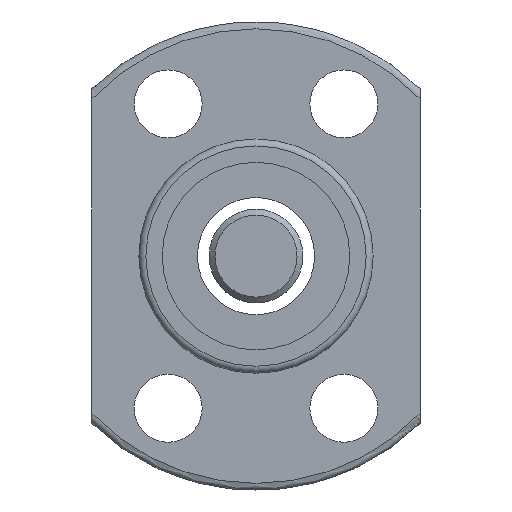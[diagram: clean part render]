
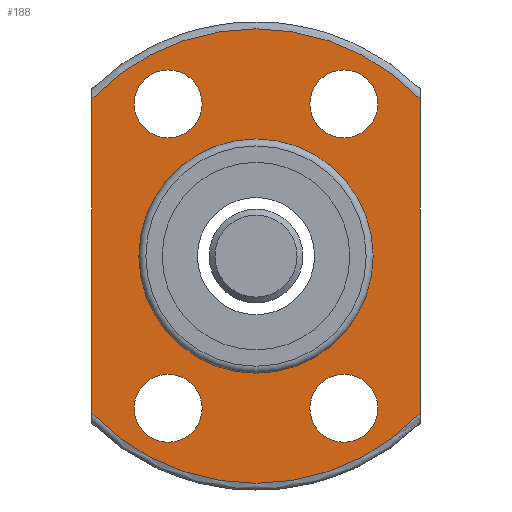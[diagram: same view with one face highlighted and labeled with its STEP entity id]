
A CAD part, left-side view. The second image highlights one B-rep face of the part: STEP entity #188.
In plain terms, the highlighted planar face has unit normal (-1, 0, 0).
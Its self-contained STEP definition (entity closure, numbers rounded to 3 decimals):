
#101=LINE('',#890,#109);
#102=LINE('',#891,#110);
#109=VECTOR('',#615,1.);
#110=VECTOR('',#616,1.);
#150=FACE_BOUND('',#249,.T.);
#151=FACE_BOUND('',#250,.T.);
#152=FACE_BOUND('',#251,.T.);
#153=FACE_BOUND('',#252,.T.);
#154=FACE_BOUND('',#253,.T.);
#188=ADVANCED_FACE('',(#150,#151,#152,#153,#154,#223),#206,.F.);
#206=PLANE('',#517);
#223=FACE_OUTER_BOUND('',#254,.T.);
#249=EDGE_LOOP('',(#322));
#250=EDGE_LOOP('',(#323));
#251=EDGE_LOOP('',(#324));
#252=EDGE_LOOP('',(#325));
#253=EDGE_LOOP('',(#326));
#254=EDGE_LOOP('',(#327,#328,#329,#330));
#322=ORIENTED_EDGE('',*,*,#439,.T.);
#323=ORIENTED_EDGE('',*,*,#440,.T.);
#324=ORIENTED_EDGE('',*,*,#441,.T.);
#325=ORIENTED_EDGE('',*,*,#442,.T.);
#326=ORIENTED_EDGE('',*,*,#443,.T.);
#327=ORIENTED_EDGE('',*,*,#437,.F.);
#328=ORIENTED_EDGE('',*,*,#444,.T.);
#329=ORIENTED_EDGE('',*,*,#421,.F.);
#330=ORIENTED_EDGE('',*,*,#445,.F.);
#381=VERTEX_POINT('',#751);
#382=VERTEX_POINT('',#771);
#394=VERTEX_POINT('',#857);
#395=VERTEX_POINT('',#859);
#396=VERTEX_POINT('',#881);
#397=VERTEX_POINT('',#883);
#398=VERTEX_POINT('',#885);
#399=VERTEX_POINT('',#887);
#400=VERTEX_POINT('',#889);
#421=EDGE_CURVE('',#382,#381,#460,.T.);
#437=EDGE_CURVE('',#394,#395,#469,.T.);
#439=EDGE_CURVE('',#396,#396,#470,.T.);
#440=EDGE_CURVE('',#397,#397,#471,.T.);
#441=EDGE_CURVE('',#398,#398,#472,.T.);
#442=EDGE_CURVE('',#399,#399,#473,.T.);
#443=EDGE_CURVE('',#400,#400,#474,.T.);
#444=EDGE_CURVE('',#394,#381,#101,.T.);
#445=EDGE_CURVE('',#395,#382,#102,.T.);
#460=CIRCLE('',#497,9.7);
#469=CIRCLE('',#510,9.7);
#470=CIRCLE('',#512,1.45);
#471=CIRCLE('',#513,1.45);
#472=CIRCLE('',#514,1.45);
#473=CIRCLE('',#515,1.45);
#474=CIRCLE('',#516,5.);
#497=AXIS2_PLACEMENT_3D('',#772,#571,#572);
#510=AXIS2_PLACEMENT_3D('',#858,#601,#602);
#512=AXIS2_PLACEMENT_3D('',#880,#605,#606);
#513=AXIS2_PLACEMENT_3D('',#882,#607,#608);
#514=AXIS2_PLACEMENT_3D('',#884,#609,#610);
#515=AXIS2_PLACEMENT_3D('',#886,#611,#612);
#516=AXIS2_PLACEMENT_3D('',#888,#613,#614);
#517=AXIS2_PLACEMENT_3D('',#892,#617,#618);
#571=DIRECTION('',(1.,0.,0.));
#572=DIRECTION('',(0.,1.,0.));
#601=DIRECTION('',(1.,0.,0.));
#602=DIRECTION('',(0.,1.,0.));
#605=DIRECTION('',(1.,0.,0.));
#606=DIRECTION('',(0.,1.,0.));
#607=DIRECTION('',(1.,0.,0.));
#608=DIRECTION('',(0.,1.,0.));
#609=DIRECTION('',(1.,0.,0.));
#610=DIRECTION('',(0.,1.,0.));
#611=DIRECTION('',(1.,0.,0.));
#612=DIRECTION('',(0.,1.,0.));
#613=DIRECTION('',(1.,0.,0.));
#614=DIRECTION('',(0.,1.,0.));
#615=DIRECTION('',(0.,0.,-1.));
#616=DIRECTION('',(0.,0.,-1.));
#617=DIRECTION('',(1.,0.,0.));
#618=DIRECTION('',(0.,1.,0.));
#751=CARTESIAN_POINT('',(-10.,7.,-6.715));
#771=CARTESIAN_POINT('',(-10.,-7.,-6.715));
#772=CARTESIAN_POINT('',(-10.,0.,0.));
#857=CARTESIAN_POINT('',(-10.,7.,6.715));
#858=CARTESIAN_POINT('',(-10.,0.,0.));
#859=CARTESIAN_POINT('',(-10.,-7.,6.715));
#880=CARTESIAN_POINT('',(-10.,3.75,-6.495));
#881=CARTESIAN_POINT('',(-10.,5.2,-6.495));
#882=CARTESIAN_POINT('',(-10.,-3.75,-6.495));
#883=CARTESIAN_POINT('',(-10.,-2.3,-6.495));
#884=CARTESIAN_POINT('',(-10.,-3.75,6.495));
#885=CARTESIAN_POINT('',(-10.,-2.3,6.495));
#886=CARTESIAN_POINT('',(-10.,3.75,6.495));
#887=CARTESIAN_POINT('',(-10.,5.2,6.495));
#888=CARTESIAN_POINT('',(-10.,0.,0.));
#889=CARTESIAN_POINT('',(-10.,5.,0.));
#890=CARTESIAN_POINT('',(-10.,7.,0.));
#891=CARTESIAN_POINT('',(-10.,-7.,0.));
#892=CARTESIAN_POINT('',(-10.,7.35,0.));
